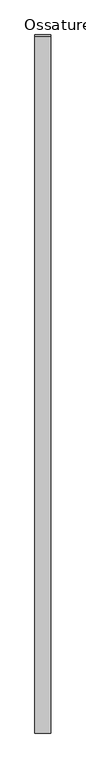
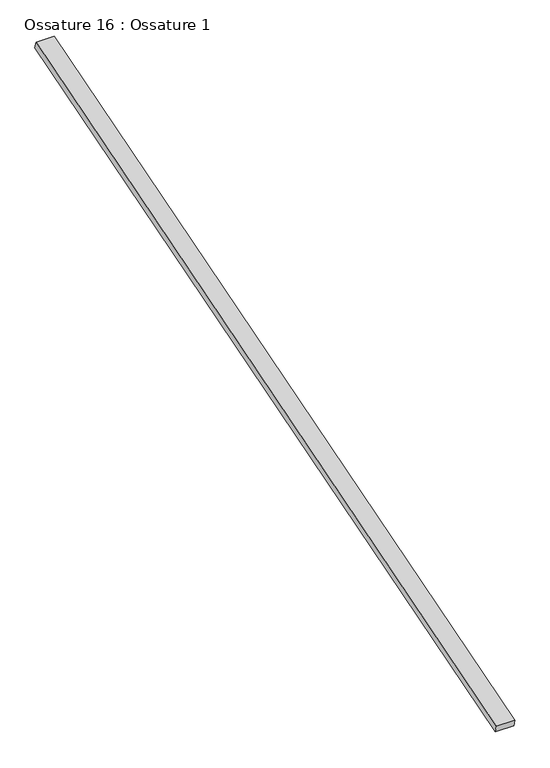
"""IFC4 building model written with IfcOpenShell, lengths in millimetres: beam geometry, Ossature 16 : Ossature 1."""

import ifcopenshell
import ifcopenshell.guid

model = None  # the IFC model being written
_history = None  # IfcOwnerHistory: only IFC2X3 demands one
_inside = {}  # id of a spatial element -> (the spatial element, [elements in it])
_under = {}  # id of a project, library or spatial element -> (it, [spatial elements below it])
_declared = {}  # id of a project -> (the project, [libraries it declares])
_typed = {}  # id of a type object -> (the type object, [elements of that type])
_made_of = {}  # id of a material, layer set ... -> (it, [elements and type objects made of it])


def new_model(schema):
    """Start an empty IFC model of exactly this schema.

    Asked for "IFC4X3", IfcOpenShell would pick the latest addendum, in which some entities
    have other attributes; the version numbers below select the first issue.
    IFC2X3 requires an IfcOwnerHistory on every rooted entity: one is made here for all.
    """
    global model, _history
    if schema == "IFC4X3":
        model = ifcopenshell.file(schema_version=(4, 3, 0, 0))
    else:
        model = ifcopenshell.file(schema=schema)
    _inside.clear()
    _under.clear()
    _declared.clear()
    _typed.clear()
    _made_of.clear()
    _history = None
    if model.schema == "IFC2X3":
        org = make("IfcOrganization", Name="unknown")
        user = make(
            "IfcPersonAndOrganization",
            ThePerson=make("IfcPerson", FamilyName="unknown"),
            TheOrganization=org,
        )
        app = make(
            "IfcApplication",
            ApplicationDeveloper=org,
            Version="unknown",
            ApplicationFullName="unknown",
            ApplicationIdentifier="unknown",
        )
        _history = make(
            "IfcOwnerHistory",
            OwningUser=user,
            OwningApplication=app,
            ChangeAction="ADDED",
            CreationDate=0,
        )
    return model


def make(cls, **values):
    """One entity of the class cls with the attributes given. An attribute that is None is left unset."""
    return model.create_entity(
        cls, **{name: value for name, value in values.items() if value is not None}
    )


def rooted(cls, **values):
    """An entity with a GlobalId (a new one), such as an element, a storey or a relation."""
    return make(cls, GlobalId=ifcopenshell.guid.new(), OwnerHistory=_history, **values)


def si_unit(unit_type, name, prefix=None):
    """IfcSIUnit, for example si_unit("LENGTHUNIT", "METRE", prefix="MILLI")."""
    return make("IfcSIUnit", UnitType=unit_type, Prefix=prefix, Name=name)


def assignment(units):
    """IfcUnitAssignment: the units of a project."""
    return None if units is None else make("IfcUnitAssignment", Units=units)


def point(xyz):
    """IfcCartesianPoint."""
    return None if xyz is None else make("IfcCartesianPoint", Coordinates=xyz)


def direction(xyz):
    """IfcDirection."""
    return None if xyz is None else make("IfcDirection", DirectionRatios=xyz)


def frame(location, z_axis=None, x_axis=None):
    """IfcAxis2Placement3D, a coordinate frame: its origin and axes. An axis left out is left unset."""
    return make(
        "IfcAxis2Placement3D",
        Location=point(location),
        Axis=direction(z_axis),
        RefDirection=direction(x_axis),
    )


def origin():
    """The frame at (0, 0, 0) with its axes left unset."""
    return frame((0.0, 0.0, 0.0))


def place(relative_to, where):
    """IfcLocalPlacement: puts the frame where relative to a parent placement (None: the world)."""
    return make(
        "IfcLocalPlacement", PlacementRelTo=relative_to, RelativePlacement=where
    )


def context(
    kind, dimensions, precision=None, world=None, true_north=None, identifier=None
):
    """IfcGeometricRepresentationContext, for example the 3D "Model" context."""
    return make(
        "IfcGeometricRepresentationContext",
        ContextIdentifier=identifier,
        ContextType=kind,
        CoordinateSpaceDimension=dimensions,
        Precision=precision,
        WorldCoordinateSystem=world,
        TrueNorth=true_north,
    )


def project(units=None, contexts=None):
    """IfcProject with its units and contexts."""
    return rooted(
        "IfcProject",
        Name="project",
        RepresentationContexts=contexts,
        UnitsInContext=assignment(units),
    )


def spatial(cls, under=None, at=None, **own):
    """A site, building, storey or space (cls), placed at a placement, below another one or the project."""
    s = rooted(cls, ObjectPlacement=at, **own)
    if under is not None:
        _under.setdefault(under.id(), (under, []))[1].append(s)
    return s


def polyline(points):
    """IfcPolyline through the points."""
    return make("IfcPolyline", Points=[point(p) for p in points])


def outline(outer, holes=None, kind="AREA"):
    """IfcArbitraryClosedProfileDef: a profile drawn as a closed curve; with holes, ...WithVoids."""
    if holes is None:
        return make("IfcArbitraryClosedProfileDef", ProfileType=kind, OuterCurve=outer)
    return make(
        "IfcArbitraryProfileDefWithVoids",
        ProfileType=kind,
        OuterCurve=outer,
        InnerCurves=holes,
    )


def extrude(swept, where, along, depth):
    """IfcExtrudedAreaSolid: the profile swept, set in the frame where, extruded along a direction by depth."""
    return make(
        "IfcExtrudedAreaSolid",
        SweptArea=swept,
        Position=where,
        ExtrudedDirection=direction(along),
        Depth=depth,
    )


def shape(context_of_items, identifier, shape_type, items):
    """IfcShapeRepresentation: the items that make up one representation, for example the "Body"."""
    return make(
        "IfcShapeRepresentation",
        ContextOfItems=context_of_items,
        RepresentationIdentifier=identifier,
        RepresentationType=shape_type,
        Items=items,
    )


def source(mapping_origin, context_of_items, identifier, shape_type, items):
    """IfcRepresentationMap: a shape defined once, which mapped items show again and again."""
    return make(
        "IfcRepresentationMap",
        MappingOrigin=mapping_origin,
        MappedRepresentation=shape(context_of_items, identifier, shape_type, items),
    )


def transform(
    local_origin,
    x_axis=None,
    y_axis=None,
    z_axis=None,
    scale=None,
    scale2=None,
    scale3=None,
    uniform=True,
):
    """IfcCartesianTransformationOperator3D, or its non-uniform kind. x_axis, y_axis, z_axis: its Axis1, 2, 3."""
    if uniform:
        return make(
            "IfcCartesianTransformationOperator3D",
            Axis1=direction(x_axis),
            Axis2=direction(y_axis),
            LocalOrigin=point(local_origin),
            Scale=scale,
            Axis3=direction(z_axis),
        )
    return make(
        "IfcCartesianTransformationOperator3DnonUniform",
        Axis1=direction(x_axis),
        Axis2=direction(y_axis),
        LocalOrigin=point(local_origin),
        Scale=scale,
        Axis3=direction(z_axis),
        Scale2=scale2,
        Scale3=scale3,
    )


def mapped(mapping_source, mapping_target):
    """IfcMappedItem: shows the shape of a source again, moved by a transform."""
    return make(
        "IfcMappedItem", MappingSource=mapping_source, MappingTarget=mapping_target
    )


def made_of(thing, what):
    """Note that an element or type object is made of a material, layer set ...; save() writes the relation."""
    if what is not None:
        _made_of.setdefault(what.id(), (what, []))[1].append(thing)
    return thing


def element(
    cls,
    number,
    at=None,
    inside=None,
    cuts=None,
    type_object=None,
    material=None,
    context=None,
    identifier="Body",
    shape_type=None,
    held_by="IfcProductDefinitionShape",
    body=None,
    shapes=None,
    **own,
):
    """One element of the class cls, such as IfcWall. Its Tag is "e" and its number.

    at: its placement. inside: the storey or other place that contains it. cuts: it is an
    opening in that element (IfcRelVoidsElement). A single representation is given by context,
    identifier, shape_type and body (its items); several are given by shapes. held_by: the class
    of the entity that holds the representations. save() writes the other relations.
    """
    e = rooted(cls, Tag="e%d" % number, ObjectPlacement=at, **own)
    if body is not None:
        shapes = [shape(context, identifier, shape_type, body)]
    if shapes is not None:
        e.Representation = make(held_by, Representations=shapes)
    if inside is not None:
        _inside.setdefault(inside.id(), (inside, []))[1].append(e)
    if cuts is not None:
        rooted(
            "IfcRelVoidsElement", RelatingBuildingElement=cuts, RelatedOpeningElement=e
        )
    if type_object is not None:
        _typed.setdefault(type_object.id(), (type_object, []))[1].append(e)
    return made_of(e, material)


def aggregate(whole, parts):
    """IfcRelAggregates: a whole, such as a stair, and the parts it consists of."""
    return rooted("IfcRelAggregates", RelatingObject=whole, RelatedObjects=parts)


def save(model, path):
    """Write the relations noted so far, then the file.

    IfcRelAggregates (storeys below a building ...), IfcRelContainedInSpatialStructure (elements
    in a storey), IfcRelDefinesByType, IfcRelAssociatesMaterial and IfcRelDeclares: one each for
    every whole, place, type object, material and project.
    """
    for whole, parts in _under.values():
        aggregate(whole, parts)
    for where, things in _inside.values():
        rooted(
            "IfcRelContainedInSpatialStructure",
            RelatedElements=things,
            RelatingStructure=where,
        )
    for kind, things in _typed.values():
        rooted("IfcRelDefinesByType", RelatedObjects=things, RelatingType=kind)
    for what, things in _made_of.values():
        rooted("IfcRelAssociatesMaterial", RelatedObjects=things, RelatingMaterial=what)
    for by, libraries in _declared.values():
        rooted("IfcRelDeclares", RelatingContext=by, RelatedDefinitions=libraries)
    model.write(path)


def ossature_16_ossature_1_13753446(model_context):
    return source(origin(), model_context, "Body", "SweptSolid", [
        extrude(outline(polyline([(0.0, 0.0), (0.0, -4543.0299679), (-100.0, -4543.0299679), (-100.0, 0.0), (0.0, 0.0)])), frame((4120.4466393, -833.3913565, 8153.6336115), z_axis=(0.0, -0.28734788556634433, 0.9578262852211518), x_axis=(-1.0, 0.0, 0.0)), (0.0, 0.0, 1.0), 40.0),
    ])


if __name__ == "__main__":
    model = new_model("IFC4")
    model_context = context("Model", 3, world=origin())
    ifc_project = project(units=[si_unit("LENGTHUNIT", "METRE", prefix="MILLI")], contexts=[model_context])
    site = spatial("IfcSite", under=ifc_project)
    building = spatial("IfcBuilding", under=site)
    placement = place(None, origin())
    ossature_16_ossature_1_shape = ossature_16_ossature_1_13753446(model_context)
    element("IfcBeam", 1, ObjectType="Ossature 16 : Ossature 1", at=placement, inside=building, context=model_context, shape_type="MappedRepresentation", body=[
        mapped(ossature_16_ossature_1_shape, transform((0.0, 0.0, 0.0), x_axis=(1.0, 0.0, 0.0), y_axis=(0.0, 1.0, 0.0), z_axis=(0.0, 0.0, 1.0))),
    ])
    save(model, "model.ifc")
